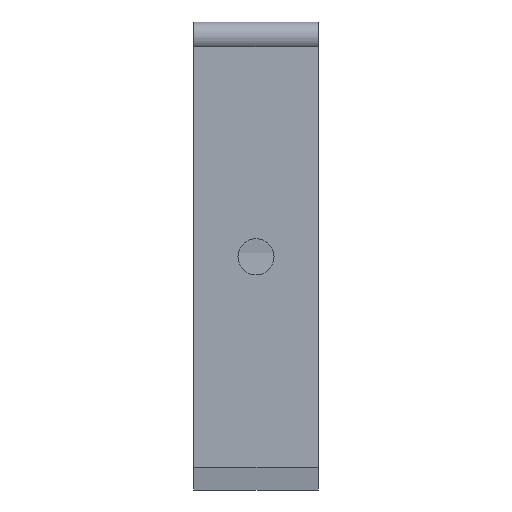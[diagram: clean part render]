
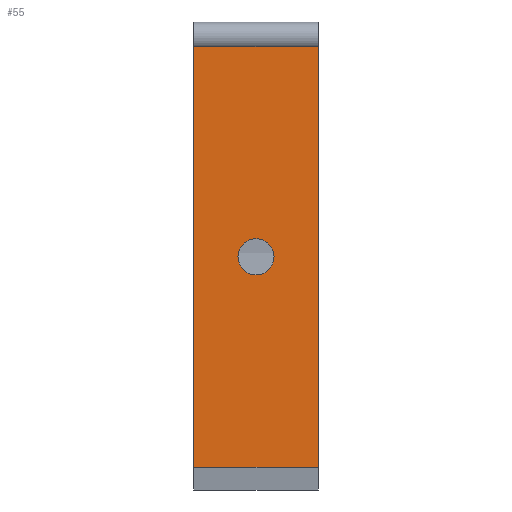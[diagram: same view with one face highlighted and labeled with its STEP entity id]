
A CAD part, front view. The second image highlights one B-rep face of the part: STEP entity #55.
In plain terms, the highlighted planar face has unit normal (0, -1, 0).
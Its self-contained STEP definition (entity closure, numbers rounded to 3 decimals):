
#55=ADVANCED_FACE('',(#239,#241),#243,.T.);
#239=FACE_BOUND('',#240,.T.);
#240=EDGE_LOOP('',(#1401,#1402,#1403,#1404));
#241=FACE_BOUND('',#242,.T.);
#242=EDGE_LOOP('',(#1405));
#243=PLANE('',#244);
#244=AXIS2_PLACEMENT_3D('',#245,#246,#247);
#245=CARTESIAN_POINT('',(-9.5,-35.407,32.));
#246=DIRECTION('',(0.,-1.,0.));
#247=DIRECTION('',(0.,0.,-1.));
#1401=ORIENTED_EDGE('',*,*,#2539,.T.);
#1402=ORIENTED_EDGE('',*,*,#2540,.T.);
#1403=ORIENTED_EDGE('',*,*,#2541,.F.);
#1404=ORIENTED_EDGE('',*,*,#2542,.F.);
#1405=ORIENTED_EDGE('',*,*,#2543,.T.);
#2539=EDGE_CURVE('',#3018,#3019,#3020,.T.);
#2540=EDGE_CURVE('',#3019,#3021,#3022,.T.);
#2541=EDGE_CURVE('',#3023,#3021,#3024,.T.);
#2542=EDGE_CURVE('',#3018,#3023,#3025,.T.);
#2543=EDGE_CURVE('',#3026,#3026,#3027,.T.);
#3018=VERTEX_POINT('',#3824);
#3019=VERTEX_POINT('',#3825);
#3020=LINE('',#3826,#3827);
#3021=VERTEX_POINT('',#3829);
#3022=LINE('',#3830,#3831);
#3023=VERTEX_POINT('',#3833);
#3024=LINE('',#3834,#3835);
#3025=LINE('',#3837,#3838);
#3026=VERTEX_POINT('',#3840);
#3027=CIRCLE('',#3841,2.75);
#3824=CARTESIAN_POINT('',(-9.5,-35.407,32.));
#3825=CARTESIAN_POINT('',(-9.5,-35.407,-32.));
#3826=CARTESIAN_POINT('',(-9.5,-35.407,32.));
#3827=VECTOR('',#3828,1.);
#3828=DIRECTION('',(0.,0.,-1.));
#3829=CARTESIAN_POINT('',(9.5,-35.407,-32.));
#3830=CARTESIAN_POINT('',(-9.5,-35.407,-32.));
#3831=VECTOR('',#3832,1.);
#3832=DIRECTION('',(1.,0.,0.));
#3833=CARTESIAN_POINT('',(9.5,-35.407,32.));
#3834=CARTESIAN_POINT('',(9.5,-35.407,32.));
#3835=VECTOR('',#3836,1.);
#3836=DIRECTION('',(0.,0.,-1.));
#3837=CARTESIAN_POINT('',(-9.5,-35.407,32.));
#3838=VECTOR('',#3839,1.);
#3839=DIRECTION('',(1.,0.,0.));
#3840=CARTESIAN_POINT('',(0.,-35.407,-2.75));
#3841=AXIS2_PLACEMENT_3D('',#3842,#3843,#3844);
#3842=CARTESIAN_POINT('',(0.,-35.407,0.));
#3843=DIRECTION('',(0.,1.,0.));
#3844=DIRECTION('',(0.,0.,-1.));
